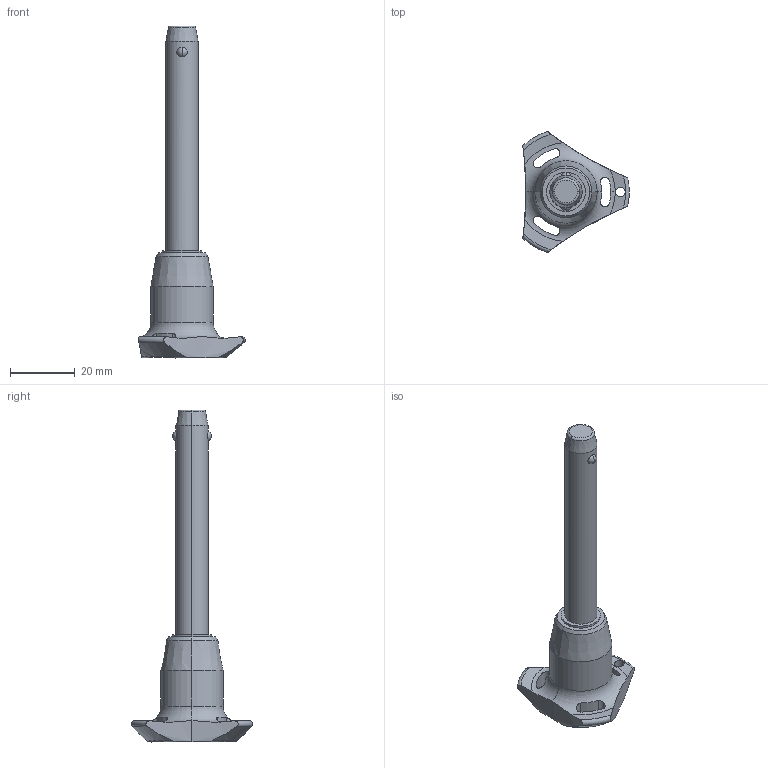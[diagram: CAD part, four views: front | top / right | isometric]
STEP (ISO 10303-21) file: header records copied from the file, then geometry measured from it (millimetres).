
FILE_DESCRIPTION (( 'STEP AP203' ), '1' );
FILE_NAME ('QR1704.M10-060-S.step', '2025-11-12T09:20:40', ( '' ), ( '' ), 'SwSTEP 2.0', 'SolidWorks 2019', '' );
FILE_SCHEMA (( 'CONFIG_CONTROL_DESIGN' ));
Length unit declared in the file: millimetre
Products named in the file (1): QR1704.M10-060-S
Bounding box: 33 x 37.51 x 102.9 mm (x, y, z)
Volume: 15792.3 mm3; surface area: 6049.4 mm2
Topology: 1 solids, 1 shells, 65 faces, 174 edges, 109 vertices
Faces by surface type: cylinder 30, cone 14, torus 11, sphere 6, plane 4
Entity records: 2758 total; most frequent: CARTESIAN_POINT 1085, ORIENTED_EDGE 348, DIRECTION 331, EDGE_CURVE 174, AXIS2_PLACEMENT_3D 147, VERTEX_POINT 109, CIRCLE 81, EDGE_LOOP 71
